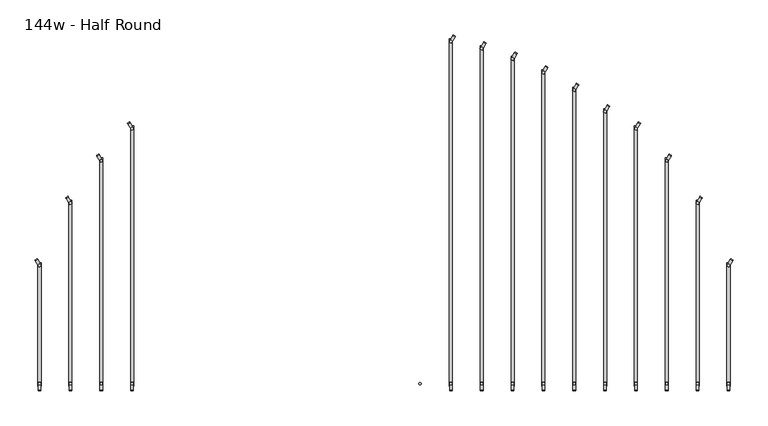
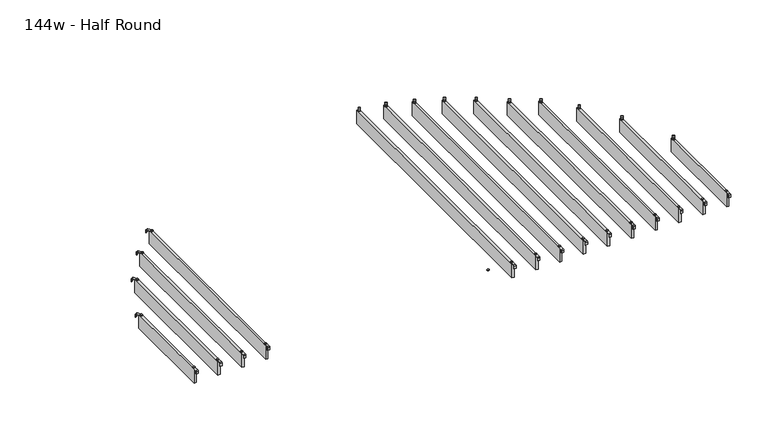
"""IFC4 building model written with IfcOpenShell, lengths in millimetres: furniture geometry, Haworth_Pergola_Ceiling_Slat_Radial : 144w - Half Round."""

from ifc_helpers import new_model, si_unit, point, frame, frame_2d, origin, place, context, project, spatial, polyline, circle_curve, trimmed, segment, composite_curve, outline, extrude, source, transform, mapped, element, save


def furniture_144w_half_round_df257ffa(model_context):
    return source(origin(), model_context, "Body", "SweptSolid", [
        extrude(outline(composite_curve([segment(trimmed(circle_curve(frame_2d((-1.0160034, 0.0159996)), 1.016), [point((-1.0160034, -1.0000004))], [point((-3.4e-06, 0.0159996))], True, "CARTESIAN"), True, "CONTINUOUS"), segment(polyline([(-3.4e-06, 0.0159996), (-3.4e-06, 36.7785168), (2.5329992, 36.7785168), (2.5329992, 0.022999)]), True, "CONTINUOUS"), segment(trimmed(circle_curve(frame_2d((-1.1500008, 0.022999)), 3.683), [point((2.5329992, 0.022999))], [point((-1.1500008, -3.660001))], False, "CARTESIAN"), True, "CONTINUOUS"), segment(polyline([(-1.1500008, -3.660001), (-19.0498319, -3.660001), (-19.0498319, -1.0000004), (-1.0160034, -1.0000004)]), True, "CONTINUOUS")], self_intersect=False)), frame((-1684.5791648, -1611.2848262, 2438.4), z_axis=(0.8660254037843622, 0.5000000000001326, 0.0), x_axis=(0.0, 0.0, 1.0)), (0.0, 0.0, 1.0), 13.0000002),
        extrude(outline(composite_curve([segment(trimmed(circle_curve(frame_2d((-1663.7, -2218.9346)), 5.9838099), [point((-1663.7, -2212.9507901))], [point((-1663.7, -2224.9184099))], False, "CARTESIAN"), True, "CONTINUOUS"), segment(trimmed(circle_curve(frame_2d((-1663.7, -2218.9346)), 5.9838099), [point((-1663.7, -2224.9184099))], [point((-1663.7, -2212.9507901))], False, "CARTESIAN"), True, "CONTINUOUS")], self_intersect=False)), frame((0.0, 0.0, 2440.9329992), z_axis=(0.0, 0.0, 1.0), x_axis=(1.0, 0.0, 0.0)), (0.0, 0.0, 1.0), 3.4400008),
        extrude(outline(composite_curve([segment(trimmed(circle_curve(frame_2d((-1663.7, -1634.4486)), 5.9838099), [point((-1663.7, -1640.4324099))], [point((-1663.7, -1628.4647901))], False, "CARTESIAN"), True, "CONTINUOUS"), segment(trimmed(circle_curve(frame_2d((-1663.7, -1634.4486)), 5.9838099), [point((-1663.7, -1628.4647901))], [point((-1663.7, -1640.4324099))], False, "CARTESIAN"), True, "CONTINUOUS")], self_intersect=False)), frame((0.0, 0.0, 2440.9329992), z_axis=(0.0, 0.0, 1.0), x_axis=(1.0, 0.0, 0.0)), (0.0, 0.0, 1.0), 3.4400008),
        extrude(outline(composite_curve([segment(polyline([(-2253.0946, 2419.2231711), (-2253.0946, 2437.2499992)]), True, "CONTINUOUS"), segment(trimmed(circle_curve(frame_2d((-2249.4116, 2437.2499992)), 3.683), [point((-2253.0946, 2437.2499992))], [point((-2249.4116, 2440.9329992))], False, "CARTESIAN"), True, "CONTINUOUS"), segment(polyline([(-2249.4116, 2440.9329992), (-2212.4346, 2440.9329992), (-2212.4346, 2438.2729997), (-2249.4251568, 2438.2729997)]), True, "CONTINUOUS"), segment(trimmed(circle_curve(frame_2d((-2249.4251568, 2437.2635571)), 1.0094425), [point((-2249.4251568, 2438.2729997))], [point((-2250.4345993, 2437.2635571))], True, "CARTESIAN"), True, "CONTINUOUS"), segment(polyline([(-2250.4345993, 2437.2635571), (-2250.4345993, 2419.2231711), (-2253.0946, 2419.2231711)]), True, "CONTINUOUS")], self_intersect=False)), frame((-1670.1930003, 0.0, 0.0), z_axis=(1.0, 0.0, 0.0), x_axis=(0.0, 1.0, 0.0)), (0.0, 0.0, 1.0), 13.0),
        extrude(outline(polyline([(-1671.193, -1620.7486), (-1656.207, -1620.7486), (-1656.207, -2232.6346), (-1671.193, -2232.6346), (-1671.193, -1620.7486)])), frame((0.0, 0.0, 2346.198), z_axis=(0.0, 0.0, 1.0), x_axis=(1.0, 0.0, 0.0)), (0.0, 0.0, 1.0), 92.202),
        extrude(outline(composite_curve([segment(trimmed(circle_curve(frame_2d((-1.0160034, 0.0159996)), 1.016), [point((-1.0160034, -1.0000004))], [point((-3.4e-06, 0.0159996))], True, "CARTESIAN"), True, "CONTINUOUS"), segment(polyline([(-3.4e-06, 0.0159996), (-3.4e-06, 36.7785168), (2.5329992, 36.7785168), (2.5329992, 0.022999)]), True, "CONTINUOUS"), segment(trimmed(circle_curve(frame_2d((-1.1500008, 0.022999)), 3.683), [point((2.5329992, 0.022999))], [point((-1.1500008, -3.660001))], False, "CARTESIAN"), True, "CONTINUOUS"), segment(polyline([(-1.1500008, -3.660001), (-19.0498319, -3.660001), (-19.0498319, -1.0000004), (-1.0160034, -1.0000004)]), True, "CONTINUOUS")], self_intersect=False)), frame((-1532.1791648, -1303.1828262, 2438.4), z_axis=(0.8660254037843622, 0.5000000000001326, 0.0), x_axis=(0.0, 0.0, 1.0)), (0.0, 0.0, 1.0), 13.0000002),
        extrude(outline(composite_curve([segment(trimmed(circle_curve(frame_2d((-1511.3, -2218.9346)), 5.9838099), [point((-1511.3, -2212.9507901))], [point((-1511.3, -2224.9184099))], False, "CARTESIAN"), True, "CONTINUOUS"), segment(trimmed(circle_curve(frame_2d((-1511.3, -2218.9346)), 5.9838099), [point((-1511.3, -2224.9184099))], [point((-1511.3, -2212.9507901))], False, "CARTESIAN"), True, "CONTINUOUS")], self_intersect=False)), frame((0.0, 0.0, 2440.9329992), z_axis=(0.0, 0.0, 1.0), x_axis=(1.0, 0.0, 0.0)), (0.0, 0.0, 1.0), 3.4400008),
        extrude(outline(composite_curve([segment(trimmed(circle_curve(frame_2d((-1511.3, -1326.3466)), 5.9838099), [point((-1511.3, -1332.3304099))], [point((-1511.3, -1320.3627901))], False, "CARTESIAN"), True, "CONTINUOUS"), segment(trimmed(circle_curve(frame_2d((-1511.3, -1326.3466)), 5.9838099), [point((-1511.3, -1320.3627901))], [point((-1511.3, -1332.3304099))], False, "CARTESIAN"), True, "CONTINUOUS")], self_intersect=False)), frame((0.0, 0.0, 2440.9329992), z_axis=(0.0, 0.0, 1.0), x_axis=(1.0, 0.0, 0.0)), (0.0, 0.0, 1.0), 3.4400008),
        extrude(outline(composite_curve([segment(polyline([(-2253.0946, 2419.2231711), (-2253.0946, 2437.2499992)]), True, "CONTINUOUS"), segment(trimmed(circle_curve(frame_2d((-2249.4116, 2437.2499992)), 3.683), [point((-2253.0946, 2437.2499992))], [point((-2249.4116, 2440.9329992))], False, "CARTESIAN"), True, "CONTINUOUS"), segment(polyline([(-2249.4116, 2440.9329992), (-2212.4346, 2440.9329992), (-2212.4346, 2438.2729997), (-2249.4251568, 2438.2729997)]), True, "CONTINUOUS"), segment(trimmed(circle_curve(frame_2d((-2249.4251568, 2437.2635571)), 1.0094425), [point((-2249.4251568, 2438.2729997))], [point((-2250.4345993, 2437.2635571))], True, "CARTESIAN"), True, "CONTINUOUS"), segment(polyline([(-2250.4345993, 2437.2635571), (-2250.4345993, 2419.2231711), (-2253.0946, 2419.2231711)]), True, "CONTINUOUS")], self_intersect=False)), frame((-1517.7930003, 0.0, 0.0), z_axis=(1.0, 0.0, 0.0), x_axis=(0.0, 1.0, 0.0)), (0.0, 0.0, 1.0), 13.0),
        extrude(outline(polyline([(-1518.793, -1312.6466), (-1503.807, -1312.6466), (-1503.807, -2232.6346), (-1518.793, -2232.6346), (-1518.793, -1312.6466)])), frame((0.0, 0.0, 2346.198), z_axis=(0.0, 0.0, 1.0), x_axis=(1.0, 0.0, 0.0)), (0.0, 0.0, 1.0), 92.202),
        extrude(outline(composite_curve([segment(trimmed(circle_curve(frame_2d((-1.0160034, 0.0159996)), 1.016), [point((-1.0160034, -1.0000004))], [point((-3.4e-06, 0.0159996))], True, "CARTESIAN"), True, "CONTINUOUS"), segment(polyline([(-3.4e-06, 0.0159996), (-3.4e-06, 36.7785168), (2.5329992, 36.7785168), (2.5329992, 0.022999)]), True, "CONTINUOUS"), segment(trimmed(circle_curve(frame_2d((-1.1500008, 0.022999)), 3.683), [point((2.5329992, 0.022999))], [point((-1.1500008, -3.660001))], False, "CARTESIAN"), True, "CONTINUOUS"), segment(polyline([(-1.1500008, -3.660001), (-19.0498319, -3.660001), (-19.0498319, -1.0000004), (-1.0160034, -1.0000004)]), True, "CONTINUOUS")], self_intersect=False)), frame((-1379.7791648, -1094.2424262, 2438.4), z_axis=(0.8660254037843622, 0.5000000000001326, 0.0), x_axis=(0.0, 0.0, 1.0)), (0.0, 0.0, 1.0), 13.0000002),
        extrude(outline(composite_curve([segment(trimmed(circle_curve(frame_2d((-1358.9, -2218.9346)), 5.9838099), [point((-1358.9, -2212.9507901))], [point((-1358.9, -2224.9184099))], False, "CARTESIAN"), True, "CONTINUOUS"), segment(trimmed(circle_curve(frame_2d((-1358.9, -2218.9346)), 5.9838099), [point((-1358.9, -2224.9184099))], [point((-1358.9, -2212.9507901))], False, "CARTESIAN"), True, "CONTINUOUS")], self_intersect=False)), frame((0.0, 0.0, 2440.9329992), z_axis=(0.0, 0.0, 1.0), x_axis=(1.0, 0.0, 0.0)), (0.0, 0.0, 1.0), 3.4400008),
        extrude(outline(composite_curve([segment(trimmed(circle_curve(frame_2d((-1358.9, -1117.4062)), 5.9838099), [point((-1358.9, -1123.3900099))], [point((-1358.9, -1111.4223901))], False, "CARTESIAN"), True, "CONTINUOUS"), segment(trimmed(circle_curve(frame_2d((-1358.9, -1117.4062)), 5.9838099), [point((-1358.9, -1111.4223901))], [point((-1358.9, -1123.3900099))], False, "CARTESIAN"), True, "CONTINUOUS")], self_intersect=False)), frame((0.0, 0.0, 2440.9329992), z_axis=(0.0, 0.0, 1.0), x_axis=(1.0, 0.0, 0.0)), (0.0, 0.0, 1.0), 3.4400008),
        extrude(outline(composite_curve([segment(polyline([(-2253.0946, 2419.2231711), (-2253.0946, 2437.2499992)]), True, "CONTINUOUS"), segment(trimmed(circle_curve(frame_2d((-2249.4116, 2437.2499992)), 3.683), [point((-2253.0946, 2437.2499992))], [point((-2249.4116, 2440.9329992))], False, "CARTESIAN"), True, "CONTINUOUS"), segment(polyline([(-2249.4116, 2440.9329992), (-2212.4346, 2440.9329992), (-2212.4346, 2438.2729997), (-2249.4251568, 2438.2729997)]), True, "CONTINUOUS"), segment(trimmed(circle_curve(frame_2d((-2249.4251568, 2437.2635571)), 1.0094425), [point((-2249.4251568, 2438.2729997))], [point((-2250.4345993, 2437.2635571))], True, "CARTESIAN"), True, "CONTINUOUS"), segment(polyline([(-2250.4345993, 2437.2635571), (-2250.4345993, 2419.2231711), (-2253.0946, 2419.2231711)]), True, "CONTINUOUS")], self_intersect=False)), frame((-1365.3930003, 0.0, 0.0), z_axis=(1.0, 0.0, 0.0), x_axis=(0.0, 1.0, 0.0)), (0.0, 0.0, 1.0), 13.0),
        extrude(outline(polyline([(-1366.393, -1103.7062), (-1351.407, -1103.7062), (-1351.407, -2232.6346), (-1366.393, -2232.6346), (-1366.393, -1103.7062)])), frame((0.0, 0.0, 2346.198), z_axis=(0.0, 0.0, 1.0), x_axis=(1.0, 0.0, 0.0)), (0.0, 0.0, 1.0), 92.202),
        extrude(outline(composite_curve([segment(trimmed(circle_curve(frame_2d((-1.0160034, 0.0159996)), 1.016), [point((-1.0160034, -1.0000004))], [point((-3.4e-06, 0.0159996))], True, "CARTESIAN"), True, "CONTINUOUS"), segment(polyline([(-3.4e-06, 0.0159996), (-3.4e-06, 36.7785168), (2.5329992, 36.7785168), (2.5329992, 0.022999)]), True, "CONTINUOUS"), segment(trimmed(circle_curve(frame_2d((-1.1500008, 0.022999)), 3.683), [point((2.5329992, 0.022999))], [point((-1.1500008, -3.660001))], False, "CARTESIAN"), True, "CONTINUOUS"), segment(polyline([(-1.1500008, -3.660001), (-19.0498319, -3.660001), (-19.0498319, -1.0000004), (-1.0160034, -1.0000004)]), True, "CONTINUOUS")], self_intersect=False)), frame((-1227.3791648, -935.7464262, 2438.4), z_axis=(0.8660254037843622, 0.5000000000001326, 0.0), x_axis=(0.0, 0.0, 1.0)), (0.0, 0.0, 1.0), 13.0000002),
        extrude(outline(composite_curve([segment(trimmed(circle_curve(frame_2d((-1206.5, -2218.9346)), 5.9838099), [point((-1206.5, -2212.9507901))], [point((-1206.5, -2224.9184099))], False, "CARTESIAN"), True, "CONTINUOUS"), segment(trimmed(circle_curve(frame_2d((-1206.5, -2218.9346)), 5.9838099), [point((-1206.5, -2224.9184099))], [point((-1206.5, -2212.9507901))], False, "CARTESIAN"), True, "CONTINUOUS")], self_intersect=False)), frame((0.0, 0.0, 2440.9329992), z_axis=(0.0, 0.0, 1.0), x_axis=(1.0, 0.0, 0.0)), (0.0, 0.0, 1.0), 3.4400008),
        extrude(outline(composite_curve([segment(trimmed(circle_curve(frame_2d((-1206.5, -958.9102)), 5.9838099), [point((-1206.5, -964.8940099))], [point((-1206.5, -952.9263901))], False, "CARTESIAN"), True, "CONTINUOUS"), segment(trimmed(circle_curve(frame_2d((-1206.5, -958.9102)), 5.9838099), [point((-1206.5, -952.9263901))], [point((-1206.5, -964.8940099))], False, "CARTESIAN"), True, "CONTINUOUS")], self_intersect=False)), frame((0.0, 0.0, 2440.9329992), z_axis=(0.0, 0.0, 1.0), x_axis=(1.0, 0.0, 0.0)), (0.0, 0.0, 1.0), 3.4400008),
        extrude(outline(composite_curve([segment(polyline([(-2253.0946, 2419.2231711), (-2253.0946, 2437.2499992)]), True, "CONTINUOUS"), segment(trimmed(circle_curve(frame_2d((-2249.4116, 2437.2499992)), 3.683), [point((-2253.0946, 2437.2499992))], [point((-2249.4116, 2440.9329992))], False, "CARTESIAN"), True, "CONTINUOUS"), segment(polyline([(-2249.4116, 2440.9329992), (-2212.4346, 2440.9329992), (-2212.4346, 2438.2729997), (-2249.4251568, 2438.2729997)]), True, "CONTINUOUS"), segment(trimmed(circle_curve(frame_2d((-2249.4251568, 2437.2635571)), 1.0094425), [point((-2249.4251568, 2438.2729997))], [point((-2250.4345993, 2437.2635571))], True, "CARTESIAN"), True, "CONTINUOUS"), segment(polyline([(-2250.4345993, 2437.2635571), (-2250.4345993, 2419.2231711), (-2253.0946, 2419.2231711)]), True, "CONTINUOUS")], self_intersect=False)), frame((-1212.9930003, 0.0, 0.0), z_axis=(1.0, 0.0, 0.0), x_axis=(0.0, 1.0, 0.0)), (0.0, 0.0, 1.0), 13.0),
        extrude(outline(polyline([(-1213.993, -945.2102), (-1199.007, -945.2102), (-1199.007, -2232.6346), (-1213.993, -2232.6346), (-1213.993, -945.2102)])), frame((0.0, 0.0, 2346.198), z_axis=(0.0, 0.0, 1.0), x_axis=(1.0, 0.0, 0.0)), (0.0, 0.0, 1.0), 92.202),
        extrude(outline(composite_curve([segment(polyline([(-1.0160034, 1.0000004), (-19.0498319, 1.0000004), (-19.0498319, 3.660001), (-1.1500008, 3.660001)]), True, "CONTINUOUS"), segment(trimmed(circle_curve(frame_2d((-1.1500008, -0.022999)), 3.683), [point((-1.1500008, 3.660001))], [point((2.5329992, -0.022999))], False, "CARTESIAN"), True, "CONTINUOUS"), segment(polyline([(2.5329992, -0.022999), (2.5329992, -36.7785168), (-3.4e-06, -36.7785168), (-3.4e-06, -0.0159996)]), True, "CONTINUOUS"), segment(trimmed(circle_curve(frame_2d((-1.0160034, -0.0159996)), 1.016), [point((-3.4e-06, -0.0159996))], [point((-1.0160034, 1.0000004))], True, "CARTESIAN"), True, "CONTINUOUS")], self_intersect=False)), frame((1760.7791648, -1611.2848262, 2438.4), z_axis=(-0.8660254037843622, 0.5000000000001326, 0.0), x_axis=(0.0, 0.0, 1.0)), (0.0, 0.0, 1.0), 13.0000002),
        extrude(outline(composite_curve([segment(trimmed(circle_curve(frame_2d((1739.9, -2218.9346)), 5.9838099), [point((1739.9, -2212.9507901))], [point((1739.9, -2224.9184099))], False, "CARTESIAN"), True, "CONTINUOUS"), segment(trimmed(circle_curve(frame_2d((1739.9, -2218.9346)), 5.9838099), [point((1739.9, -2224.9184099))], [point((1739.9, -2212.9507901))], False, "CARTESIAN"), True, "CONTINUOUS")], self_intersect=False)), frame((0.0, 0.0, 2440.9329992), z_axis=(0.0, 0.0, 1.0), x_axis=(1.0, 0.0, 0.0)), (0.0, 0.0, 1.0), 3.4400008),
        extrude(outline(composite_curve([segment(trimmed(circle_curve(frame_2d((1739.9, -1634.4486)), 5.9838099), [point((1739.9, -1640.4324099))], [point((1739.9, -1628.4647901))], False, "CARTESIAN"), True, "CONTINUOUS"), segment(trimmed(circle_curve(frame_2d((1739.9, -1634.4486)), 5.9838099), [point((1739.9, -1628.4647901))], [point((1739.9, -1640.4324099))], False, "CARTESIAN"), True, "CONTINUOUS")], self_intersect=False)), frame((0.0, 0.0, 2440.9329992), z_axis=(0.0, 0.0, 1.0), x_axis=(1.0, 0.0, 0.0)), (0.0, 0.0, 1.0), 3.4400008),
        extrude(outline(composite_curve([segment(polyline([(-2253.0946, 2419.2231711), (-2253.0946, 2437.2499992)]), True, "CONTINUOUS"), segment(trimmed(circle_curve(frame_2d((-2249.4116, 2437.2499992)), 3.683), [point((-2253.0946, 2437.2499992))], [point((-2249.4116, 2440.9329992))], False, "CARTESIAN"), True, "CONTINUOUS"), segment(polyline([(-2249.4116, 2440.9329992), (-2212.4346, 2440.9329992), (-2212.4346, 2438.2729997), (-2249.4251568, 2438.2729997)]), True, "CONTINUOUS"), segment(trimmed(circle_curve(frame_2d((-2249.4251568, 2437.2635571)), 1.0094425), [point((-2249.4251568, 2438.2729997))], [point((-2250.4345993, 2437.2635571))], True, "CARTESIAN"), True, "CONTINUOUS"), segment(polyline([(-2250.4345993, 2437.2635571), (-2250.4345993, 2419.2231711), (-2253.0946, 2419.2231711)]), True, "CONTINUOUS")], self_intersect=False)), frame((1733.3930003, 0.0, 0.0), z_axis=(1.0, 0.0, 0.0), x_axis=(0.0, 1.0, 0.0)), (0.0, 0.0, 1.0), 13.0),
        extrude(outline(polyline([(1747.393, -1620.7486), (1747.393, -2232.6346), (1732.407, -2232.6346), (1732.407, -1620.7486), (1747.393, -1620.7486)])), frame((0.0, 0.0, 2346.198), z_axis=(0.0, 0.0, 1.0), x_axis=(1.0, 0.0, 0.0)), (0.0, 0.0, 1.0), 92.202),
        extrude(outline(composite_curve([segment(polyline([(-1.0160034, 1.0000004), (-19.0498319, 1.0000004), (-19.0498319, 3.660001), (-1.1500008, 3.660001)]), True, "CONTINUOUS"), segment(trimmed(circle_curve(frame_2d((-1.1500008, -0.022999)), 3.683), [point((-1.1500008, 3.660001))], [point((2.5329992, -0.022999))], False, "CARTESIAN"), True, "CONTINUOUS"), segment(polyline([(2.5329992, -0.022999), (2.5329992, -36.7785168), (-3.4e-06, -36.7785168), (-3.4e-06, -0.0159996)]), True, "CONTINUOUS"), segment(trimmed(circle_curve(frame_2d((-1.0160034, -0.0159996)), 1.016), [point((-3.4e-06, -0.0159996))], [point((-1.0160034, 1.0000004))], True, "CARTESIAN"), True, "CONTINUOUS")], self_intersect=False)), frame((1608.3791648, -1303.1828262, 2438.4), z_axis=(-0.8660254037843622, 0.5000000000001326, 0.0), x_axis=(0.0, 0.0, 1.0)), (0.0, 0.0, 1.0), 13.0000002),
        extrude(outline(composite_curve([segment(trimmed(circle_curve(frame_2d((1587.5, -2218.9346)), 5.9838099), [point((1587.5, -2212.9507901))], [point((1587.5, -2224.9184099))], False, "CARTESIAN"), True, "CONTINUOUS"), segment(trimmed(circle_curve(frame_2d((1587.5, -2218.9346)), 5.9838099), [point((1587.5, -2224.9184099))], [point((1587.5, -2212.9507901))], False, "CARTESIAN"), True, "CONTINUOUS")], self_intersect=False)), frame((0.0, 0.0, 2440.9329992), z_axis=(0.0, 0.0, 1.0), x_axis=(1.0, 0.0, 0.0)), (0.0, 0.0, 1.0), 3.4400008),
        extrude(outline(composite_curve([segment(trimmed(circle_curve(frame_2d((1587.5, -1326.3466)), 5.9838099), [point((1587.5, -1332.3304099))], [point((1587.5, -1320.3627901))], False, "CARTESIAN"), True, "CONTINUOUS"), segment(trimmed(circle_curve(frame_2d((1587.5, -1326.3466)), 5.9838099), [point((1587.5, -1320.3627901))], [point((1587.5, -1332.3304099))], False, "CARTESIAN"), True, "CONTINUOUS")], self_intersect=False)), frame((0.0, 0.0, 2440.9329992), z_axis=(0.0, 0.0, 1.0), x_axis=(1.0, 0.0, 0.0)), (0.0, 0.0, 1.0), 3.4400008),
        extrude(outline(composite_curve([segment(polyline([(-2253.0946, 2419.2231711), (-2253.0946, 2437.2499992)]), True, "CONTINUOUS"), segment(trimmed(circle_curve(frame_2d((-2249.4116, 2437.2499992)), 3.683), [point((-2253.0946, 2437.2499992))], [point((-2249.4116, 2440.9329992))], False, "CARTESIAN"), True, "CONTINUOUS"), segment(polyline([(-2249.4116, 2440.9329992), (-2212.4346, 2440.9329992), (-2212.4346, 2438.2729997), (-2249.4251568, 2438.2729997)]), True, "CONTINUOUS"), segment(trimmed(circle_curve(frame_2d((-2249.4251568, 2437.2635571)), 1.0094425), [point((-2249.4251568, 2438.2729997))], [point((-2250.4345993, 2437.2635571))], True, "CARTESIAN"), True, "CONTINUOUS"), segment(polyline([(-2250.4345993, 2437.2635571), (-2250.4345993, 2419.2231711), (-2253.0946, 2419.2231711)]), True, "CONTINUOUS")], self_intersect=False)), frame((1580.9930003, 0.0, 0.0), z_axis=(1.0, 0.0, 0.0), x_axis=(0.0, 1.0, 0.0)), (0.0, 0.0, 1.0), 13.0),
        extrude(outline(polyline([(1594.993, -1312.6466), (1594.993, -2232.6346), (1580.007, -2232.6346), (1580.007, -1312.6466), (1594.993, -1312.6466)])), frame((0.0, 0.0, 2346.198), z_axis=(0.0, 0.0, 1.0), x_axis=(1.0, 0.0, 0.0)), (0.0, 0.0, 1.0), 92.202),
        extrude(outline(composite_curve([segment(polyline([(-1.0160034, 1.0000004), (-19.0498319, 1.0000004), (-19.0498319, 3.660001), (-1.1500008, 3.660001)]), True, "CONTINUOUS"), segment(trimmed(circle_curve(frame_2d((-1.1500008, -0.022999)), 3.683), [point((-1.1500008, 3.660001))], [point((2.5329992, -0.022999))], False, "CARTESIAN"), True, "CONTINUOUS"), segment(polyline([(2.5329992, -0.022999), (2.5329992, -36.7785168), (-3.4e-06, -36.7785168), (-3.4e-06, -0.0159996)]), True, "CONTINUOUS"), segment(trimmed(circle_curve(frame_2d((-1.0160034, -0.0159996)), 1.016), [point((-3.4e-06, -0.0159996))], [point((-1.0160034, 1.0000004))], True, "CARTESIAN"), True, "CONTINUOUS")], self_intersect=False)), frame((1455.9791648, -1094.2424262, 2438.4), z_axis=(-0.8660254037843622, 0.5000000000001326, 0.0), x_axis=(0.0, 0.0, 1.0)), (0.0, 0.0, 1.0), 13.0000002),
        extrude(outline(composite_curve([segment(trimmed(circle_curve(frame_2d((1435.1, -2218.9346)), 5.9838099), [point((1435.1, -2212.9507901))], [point((1435.1, -2224.9184099))], False, "CARTESIAN"), True, "CONTINUOUS"), segment(trimmed(circle_curve(frame_2d((1435.1, -2218.9346)), 5.9838099), [point((1435.1, -2224.9184099))], [point((1435.1, -2212.9507901))], False, "CARTESIAN"), True, "CONTINUOUS")], self_intersect=False)), frame((0.0, 0.0, 2440.9329992), z_axis=(0.0, 0.0, 1.0), x_axis=(1.0, 0.0, 0.0)), (0.0, 0.0, 1.0), 3.4400008),
        extrude(outline(composite_curve([segment(trimmed(circle_curve(frame_2d((1435.1, -1117.4062)), 5.9838099), [point((1435.1, -1123.3900099))], [point((1435.1, -1111.4223901))], False, "CARTESIAN"), True, "CONTINUOUS"), segment(trimmed(circle_curve(frame_2d((1435.1, -1117.4062)), 5.9838099), [point((1435.1, -1111.4223901))], [point((1435.1, -1123.3900099))], False, "CARTESIAN"), True, "CONTINUOUS")], self_intersect=False)), frame((0.0, 0.0, 2440.9329992), z_axis=(0.0, 0.0, 1.0), x_axis=(1.0, 0.0, 0.0)), (0.0, 0.0, 1.0), 3.4400008),
        extrude(outline(composite_curve([segment(polyline([(-2253.0946, 2419.2231711), (-2253.0946, 2437.2499992)]), True, "CONTINUOUS"), segment(trimmed(circle_curve(frame_2d((-2249.4116, 2437.2499992)), 3.683), [point((-2253.0946, 2437.2499992))], [point((-2249.4116, 2440.9329992))], False, "CARTESIAN"), True, "CONTINUOUS"), segment(polyline([(-2249.4116, 2440.9329992), (-2212.4346, 2440.9329992), (-2212.4346, 2438.2729997), (-2249.4251568, 2438.2729997)]), True, "CONTINUOUS"), segment(trimmed(circle_curve(frame_2d((-2249.4251568, 2437.2635571)), 1.0094425), [point((-2249.4251568, 2438.2729997))], [point((-2250.4345993, 2437.2635571))], True, "CARTESIAN"), True, "CONTINUOUS"), segment(polyline([(-2250.4345993, 2437.2635571), (-2250.4345993, 2419.2231711), (-2253.0946, 2419.2231711)]), True, "CONTINUOUS")], self_intersect=False)), frame((1428.5930003, 0.0, 0.0), z_axis=(1.0, 0.0, 0.0), x_axis=(0.0, 1.0, 0.0)), (0.0, 0.0, 1.0), 13.0),
        extrude(outline(polyline([(1442.593, -1103.7062), (1442.593, -2232.6346), (1427.607, -2232.6346), (1427.607, -1103.7062), (1442.593, -1103.7062)])), frame((0.0, 0.0, 2346.198), z_axis=(0.0, 0.0, 1.0), x_axis=(1.0, 0.0, 0.0)), (0.0, 0.0, 1.0), 92.202),
        extrude(outline(composite_curve([segment(polyline([(-1.0160034, 1.0000004), (-19.0498319, 1.0000004), (-19.0498319, 3.660001), (-1.1500008, 3.660001)]), True, "CONTINUOUS"), segment(trimmed(circle_curve(frame_2d((-1.1500008, -0.022999)), 3.683), [point((-1.1500008, 3.660001))], [point((2.5329992, -0.022999))], False, "CARTESIAN"), True, "CONTINUOUS"), segment(polyline([(2.5329992, -0.022999), (2.5329992, -36.7785168), (-3.4e-06, -36.7785168), (-3.4e-06, -0.0159996)]), True, "CONTINUOUS"), segment(trimmed(circle_curve(frame_2d((-1.0160034, -0.0159996)), 1.016), [point((-3.4e-06, -0.0159996))], [point((-1.0160034, 1.0000004))], True, "CARTESIAN"), True, "CONTINUOUS")], self_intersect=False)), frame((1303.5791648, -935.7464262, 2438.4), z_axis=(-0.8660254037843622, 0.5000000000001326, 0.0), x_axis=(0.0, 0.0, 1.0)), (0.0, 0.0, 1.0), 13.0000002),
        extrude(outline(composite_curve([segment(trimmed(circle_curve(frame_2d((1282.7, -2218.9346)), 5.9838099), [point((1282.7, -2212.9507901))], [point((1282.7, -2224.9184099))], False, "CARTESIAN"), True, "CONTINUOUS"), segment(trimmed(circle_curve(frame_2d((1282.7, -2218.9346)), 5.9838099), [point((1282.7, -2224.9184099))], [point((1282.7, -2212.9507901))], False, "CARTESIAN"), True, "CONTINUOUS")], self_intersect=False)), frame((0.0, 0.0, 2440.9329992), z_axis=(0.0, 0.0, 1.0), x_axis=(1.0, 0.0, 0.0)), (0.0, 0.0, 1.0), 3.4400008),
        extrude(outline(composite_curve([segment(trimmed(circle_curve(frame_2d((1282.7, -958.9102)), 5.9838099), [point((1282.7, -964.8940099))], [point((1282.7, -952.9263901))], False, "CARTESIAN"), True, "CONTINUOUS"), segment(trimmed(circle_curve(frame_2d((1282.7, -958.9102)), 5.9838099), [point((1282.7, -952.9263901))], [point((1282.7, -964.8940099))], False, "CARTESIAN"), True, "CONTINUOUS")], self_intersect=False)), frame((0.0, 0.0, 2440.9329992), z_axis=(0.0, 0.0, 1.0), x_axis=(1.0, 0.0, 0.0)), (0.0, 0.0, 1.0), 3.4400008),
        extrude(outline(composite_curve([segment(polyline([(-2253.0946, 2419.2231711), (-2253.0946, 2437.2499992)]), True, "CONTINUOUS"), segment(trimmed(circle_curve(frame_2d((-2249.4116, 2437.2499992)), 3.683), [point((-2253.0946, 2437.2499992))], [point((-2249.4116, 2440.9329992))], False, "CARTESIAN"), True, "CONTINUOUS"), segment(polyline([(-2249.4116, 2440.9329992), (-2212.4346, 2440.9329992), (-2212.4346, 2438.2729997), (-2249.4251568, 2438.2729997)]), True, "CONTINUOUS"), segment(trimmed(circle_curve(frame_2d((-2249.4251568, 2437.2635571)), 1.0094425), [point((-2249.4251568, 2438.2729997))], [point((-2250.4345993, 2437.2635571))], True, "CARTESIAN"), True, "CONTINUOUS"), segment(polyline([(-2250.4345993, 2437.2635571), (-2250.4345993, 2419.2231711), (-2253.0946, 2419.2231711)]), True, "CONTINUOUS")], self_intersect=False)), frame((1276.1930003, 0.0, 0.0), z_axis=(1.0, 0.0, 0.0), x_axis=(0.0, 1.0, 0.0)), (0.0, 0.0, 1.0), 13.0),
        extrude(outline(polyline([(1290.193, -945.2102), (1290.193, -2232.6346), (1275.207, -2232.6346), (1275.207, -945.2102), (1290.193, -945.2102)])), frame((0.0, 0.0, 2346.198), z_axis=(0.0, 0.0, 1.0), x_axis=(1.0, 0.0, 0.0)), (0.0, 0.0, 1.0), 92.202),
        extrude(outline(composite_curve([segment(polyline([(-1.0160034, 1.0000004), (-19.0498319, 1.0000004), (-19.0498319, 3.660001), (-1.1500008, 3.660001)]), True, "CONTINUOUS"), segment(trimmed(circle_curve(frame_2d((-1.1500008, -0.022999)), 3.683), [point((-1.1500008, 3.660001))], [point((2.5329992, -0.022999))], False, "CARTESIAN"), True, "CONTINUOUS"), segment(polyline([(2.5329992, -0.022999), (2.5329992, -36.7785168), (-3.4e-06, -36.7785168), (-3.4e-06, -0.0159996)]), True, "CONTINUOUS"), segment(trimmed(circle_curve(frame_2d((-1.0160034, -0.0159996)), 1.016), [point((-3.4e-06, -0.0159996))], [point((-1.0160034, 1.0000004))], True, "CARTESIAN"), True, "CONTINUOUS")], self_intersect=False)), frame((1151.1791648, -850.6564262, 2438.4), z_axis=(-0.8660254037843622, 0.5000000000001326, 0.0), x_axis=(0.0, 0.0, 1.0)), (0.0, 0.0, 1.0), 13.0000002),
        extrude(outline(composite_curve([segment(trimmed(circle_curve(frame_2d((1130.3, -2218.9346)), 5.9838099), [point((1130.3, -2212.9507901))], [point((1130.3, -2224.9184099))], False, "CARTESIAN"), True, "CONTINUOUS"), segment(trimmed(circle_curve(frame_2d((1130.3, -2218.9346)), 5.9838099), [point((1130.3, -2224.9184099))], [point((1130.3, -2212.9507901))], False, "CARTESIAN"), True, "CONTINUOUS")], self_intersect=False)), frame((0.0, 0.0, 2440.9329992), z_axis=(0.0, 0.0, 1.0), x_axis=(1.0, 0.0, 0.0)), (0.0, 0.0, 1.0), 3.4400008),
        extrude(outline(composite_curve([segment(trimmed(circle_curve(frame_2d((1130.3, -873.8202)), 5.9838099), [point((1130.3, -879.8040099))], [point((1130.3, -867.8363901))], False, "CARTESIAN"), True, "CONTINUOUS"), segment(trimmed(circle_curve(frame_2d((1130.3, -873.8202)), 5.9838099), [point((1130.3, -867.8363901))], [point((1130.3, -879.8040099))], False, "CARTESIAN"), True, "CONTINUOUS")], self_intersect=False)), frame((0.0, 0.0, 2440.9329992), z_axis=(0.0, 0.0, 1.0), x_axis=(1.0, 0.0, 0.0)), (0.0, 0.0, 1.0), 3.4400008),
        extrude(outline(composite_curve([segment(polyline([(-2253.0946, 2419.2231711), (-2253.0946, 2437.2499992)]), True, "CONTINUOUS"), segment(trimmed(circle_curve(frame_2d((-2249.4116, 2437.2499992)), 3.683), [point((-2253.0946, 2437.2499992))], [point((-2249.4116, 2440.9329992))], False, "CARTESIAN"), True, "CONTINUOUS"), segment(polyline([(-2249.4116, 2440.9329992), (-2212.4346, 2440.9329992), (-2212.4346, 2438.2729997), (-2249.4251568, 2438.2729997)]), True, "CONTINUOUS"), segment(trimmed(circle_curve(frame_2d((-2249.4251568, 2437.2635571)), 1.0094425), [point((-2249.4251568, 2438.2729997))], [point((-2250.4345993, 2437.2635571))], True, "CARTESIAN"), True, "CONTINUOUS"), segment(polyline([(-2250.4345993, 2437.2635571), (-2250.4345993, 2419.2231711), (-2253.0946, 2419.2231711)]), True, "CONTINUOUS")], self_intersect=False)), frame((1123.7930003, 0.0, 0.0), z_axis=(1.0, 0.0, 0.0), x_axis=(0.0, 1.0, 0.0)), (0.0, 0.0, 1.0), 13.0),
        extrude(outline(polyline([(1137.793, -860.1202), (1137.793, -2232.6346), (1122.807, -2232.6346), (1122.807, -860.1202), (1137.793, -860.1202)])), frame((0.0, 0.0, 2346.198), z_axis=(0.0, 0.0, 1.0), x_axis=(1.0, 0.0, 0.0)), (0.0, 0.0, 1.0), 92.202),
        extrude(outline(composite_curve([segment(polyline([(-1.0160034, 1.0000004), (-19.0498319, 1.0000004), (-19.0498319, 3.660001), (-1.1500008, 3.660001)]), True, "CONTINUOUS"), segment(trimmed(circle_curve(frame_2d((-1.1500008, -0.022999)), 3.683), [point((-1.1500008, 3.660001))], [point((2.5329992, -0.022999))], False, "CARTESIAN"), True, "CONTINUOUS"), segment(polyline([(2.5329992, -0.022999), (2.5329992, -36.7785168), (-3.4e-06, -36.7785168), (-3.4e-06, -0.0159996)]), True, "CONTINUOUS"), segment(trimmed(circle_curve(frame_2d((-1.0160034, -0.0159996)), 1.016), [point((-3.4e-06, -0.0159996))], [point((-1.0160034, 1.0000004))], True, "CARTESIAN"), True, "CONTINUOUS")], self_intersect=False)), frame((998.7791648, -744.8400262, 2438.4), z_axis=(-0.8660254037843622, 0.5000000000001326, 0.0), x_axis=(0.0, 0.0, 1.0)), (0.0, 0.0, 1.0), 13.0000002),
        extrude(outline(composite_curve([segment(trimmed(circle_curve(frame_2d((977.9, -2218.9346)), 5.9838099), [point((977.9, -2212.9507901))], [point((977.9, -2224.9184099))], False, "CARTESIAN"), True, "CONTINUOUS"), segment(trimmed(circle_curve(frame_2d((977.9, -2218.9346)), 5.9838099), [point((977.9, -2224.9184099))], [point((977.9, -2212.9507901))], False, "CARTESIAN"), True, "CONTINUOUS")], self_intersect=False)), frame((0.0, 0.0, 2440.9329992), z_axis=(0.0, 0.0, 1.0), x_axis=(1.0, 0.0, 0.0)), (0.0, 0.0, 1.0), 3.4400008),
        extrude(outline(composite_curve([segment(trimmed(circle_curve(frame_2d((977.9, -768.0038)), 5.9838099), [point((977.9, -773.9876099))], [point((977.9, -762.0199901))], False, "CARTESIAN"), True, "CONTINUOUS"), segment(trimmed(circle_curve(frame_2d((977.9, -768.0038)), 5.9838099), [point((977.9, -762.0199901))], [point((977.9, -773.9876099))], False, "CARTESIAN"), True, "CONTINUOUS")], self_intersect=False)), frame((0.0, 0.0, 2440.9329992), z_axis=(0.0, 0.0, 1.0), x_axis=(1.0, 0.0, 0.0)), (0.0, 0.0, 1.0), 3.4400008),
        extrude(outline(composite_curve([segment(polyline([(-2253.0946, 2419.2231711), (-2253.0946, 2437.2499992)]), True, "CONTINUOUS"), segment(trimmed(circle_curve(frame_2d((-2249.4116, 2437.2499992)), 3.683), [point((-2253.0946, 2437.2499992))], [point((-2249.4116, 2440.9329992))], False, "CARTESIAN"), True, "CONTINUOUS"), segment(polyline([(-2249.4116, 2440.9329992), (-2212.4346, 2440.9329992), (-2212.4346, 2438.2729997), (-2249.4251568, 2438.2729997)]), True, "CONTINUOUS"), segment(trimmed(circle_curve(frame_2d((-2249.4251568, 2437.2635571)), 1.0094425), [point((-2249.4251568, 2438.2729997))], [point((-2250.4345993, 2437.2635571))], True, "CARTESIAN"), True, "CONTINUOUS"), segment(polyline([(-2250.4345993, 2437.2635571), (-2250.4345993, 2419.2231711), (-2253.0946, 2419.2231711)]), True, "CONTINUOUS")], self_intersect=False)), frame((971.3930003, 0.0, 0.0), z_axis=(1.0, 0.0, 0.0), x_axis=(0.0, 1.0, 0.0)), (0.0, 0.0, 1.0), 13.0),
        extrude(outline(polyline([(985.393, -754.3038), (985.393, -2232.6346), (970.407, -2232.6346), (970.407, -754.3038), (985.393, -754.3038)])), frame((0.0, 0.0, 2346.198), z_axis=(0.0, 0.0, 1.0), x_axis=(1.0, 0.0, 0.0)), (0.0, 0.0, 1.0), 92.202),
        extrude(outline(composite_curve([segment(polyline([(-1.0160034, 1.0000004), (-19.0498319, 1.0000004), (-19.0498319, 3.660001), (-1.1500008, 3.660001)]), True, "CONTINUOUS"), segment(trimmed(circle_curve(frame_2d((-1.1500008, -0.022999)), 3.683), [point((-1.1500008, 3.660001))], [point((2.5329992, -0.022999))], False, "CARTESIAN"), True, "CONTINUOUS"), segment(polyline([(2.5329992, -0.022999), (2.5329992, -36.7785168), (-3.4e-06, -36.7785168), (-3.4e-06, -0.0159996)]), True, "CONTINUOUS"), segment(trimmed(circle_curve(frame_2d((-1.0160034, -0.0159996)), 1.016), [point((-3.4e-06, -0.0159996))], [point((-1.0160034, 1.0000004))], True, "CARTESIAN"), True, "CONTINUOUS")], self_intersect=False)), frame((846.3791648, -657.9466262, 2438.4), z_axis=(-0.8660254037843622, 0.5000000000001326, 0.0), x_axis=(0.0, 0.0, 1.0)), (0.0, 0.0, 1.0), 13.0000002),
        extrude(outline(composite_curve([segment(trimmed(circle_curve(frame_2d((825.5, -2218.9346)), 5.9838099), [point((825.5, -2212.9507901))], [point((825.5, -2224.9184099))], False, "CARTESIAN"), True, "CONTINUOUS"), segment(trimmed(circle_curve(frame_2d((825.5, -2218.9346)), 5.9838099), [point((825.5, -2224.9184099))], [point((825.5, -2212.9507901))], False, "CARTESIAN"), True, "CONTINUOUS")], self_intersect=False)), frame((0.0, 0.0, 2440.9329992), z_axis=(0.0, 0.0, 1.0), x_axis=(1.0, 0.0, 0.0)), (0.0, 0.0, 1.0), 3.4400008),
        extrude(outline(composite_curve([segment(trimmed(circle_curve(frame_2d((825.5, -681.1104)), 5.9838099), [point((825.5, -687.0942099))], [point((825.5, -675.1265901))], False, "CARTESIAN"), True, "CONTINUOUS"), segment(trimmed(circle_curve(frame_2d((825.5, -681.1104)), 5.9838099), [point((825.5, -675.1265901))], [point((825.5, -687.0942099))], False, "CARTESIAN"), True, "CONTINUOUS")], self_intersect=False)), frame((0.0, 0.0, 2440.9329992), z_axis=(0.0, 0.0, 1.0), x_axis=(1.0, 0.0, 0.0)), (0.0, 0.0, 1.0), 3.4400008),
        extrude(outline(composite_curve([segment(polyline([(-2253.0946, 2419.2231711), (-2253.0946, 2437.2499992)]), True, "CONTINUOUS"), segment(trimmed(circle_curve(frame_2d((-2249.4116, 2437.2499992)), 3.683), [point((-2253.0946, 2437.2499992))], [point((-2249.4116, 2440.9329992))], False, "CARTESIAN"), True, "CONTINUOUS"), segment(polyline([(-2249.4116, 2440.9329992), (-2212.4346, 2440.9329992), (-2212.4346, 2438.2729997), (-2249.4251568, 2438.2729997)]), True, "CONTINUOUS"), segment(trimmed(circle_curve(frame_2d((-2249.4251568, 2437.2635571)), 1.0094425), [point((-2249.4251568, 2438.2729997))], [point((-2250.4345993, 2437.2635571))], True, "CARTESIAN"), True, "CONTINUOUS"), segment(polyline([(-2250.4345993, 2437.2635571), (-2250.4345993, 2419.2231711), (-2253.0946, 2419.2231711)]), True, "CONTINUOUS")], self_intersect=False)), frame((818.9930003, 0.0, 0.0), z_axis=(1.0, 0.0, 0.0), x_axis=(0.0, 1.0, 0.0)), (0.0, 0.0, 1.0), 13.0),
        extrude(outline(polyline([(832.993, -667.4104), (832.993, -2232.6346), (818.007, -2232.6346), (818.007, -667.4104), (832.993, -667.4104)])), frame((0.0, 0.0, 2346.198), z_axis=(0.0, 0.0, 1.0), x_axis=(1.0, 0.0, 0.0)), (0.0, 0.0, 1.0), 92.202),
        extrude(outline(composite_curve([segment(polyline([(-1.0160034, 1.0000004), (-19.0498319, 1.0000004), (-19.0498319, 3.660001), (-1.1500008, 3.660001)]), True, "CONTINUOUS"), segment(trimmed(circle_curve(frame_2d((-1.1500008, -0.022999)), 3.683), [point((-1.1500008, 3.660001))], [point((2.5329992, -0.022999))], False, "CARTESIAN"), True, "CONTINUOUS"), segment(polyline([(2.5329992, -0.022999), (2.5329992, -36.7785168), (-3.4e-06, -36.7785168), (-3.4e-06, -0.0159996)]), True, "CONTINUOUS"), segment(trimmed(circle_curve(frame_2d((-1.0160034, -0.0159996)), 1.016), [point((-3.4e-06, -0.0159996))], [point((-1.0160034, 1.0000004))], True, "CARTESIAN"), True, "CONTINUOUS")], self_intersect=False)), frame((693.9791648, -590.7890262, 2438.4), z_axis=(-0.8660254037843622, 0.5000000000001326, 0.0), x_axis=(0.0, 0.0, 1.0)), (0.0, 0.0, 1.0), 13.0000002),
        extrude(outline(composite_curve([segment(trimmed(circle_curve(frame_2d((673.1, -2218.9346)), 5.9838099), [point((673.1, -2212.9507901))], [point((673.1, -2224.9184099))], False, "CARTESIAN"), True, "CONTINUOUS"), segment(trimmed(circle_curve(frame_2d((673.1, -2218.9346)), 5.9838099), [point((673.1, -2224.9184099))], [point((673.1, -2212.9507901))], False, "CARTESIAN"), True, "CONTINUOUS")], self_intersect=False)), frame((0.0, 0.0, 2440.9329992), z_axis=(0.0, 0.0, 1.0), x_axis=(1.0, 0.0, 0.0)), (0.0, 0.0, 1.0), 3.4400008),
        extrude(outline(composite_curve([segment(trimmed(circle_curve(frame_2d((673.1, -613.9528)), 5.9838099), [point((673.1, -619.9366099))], [point((673.1, -607.9689901))], False, "CARTESIAN"), True, "CONTINUOUS"), segment(trimmed(circle_curve(frame_2d((673.1, -613.9528)), 5.9838099), [point((673.1, -607.9689901))], [point((673.1, -619.9366099))], False, "CARTESIAN"), True, "CONTINUOUS")], self_intersect=False)), frame((0.0, 0.0, 2440.9329992), z_axis=(0.0, 0.0, 1.0), x_axis=(1.0, 0.0, 0.0)), (0.0, 0.0, 1.0), 3.4400008),
        extrude(outline(composite_curve([segment(polyline([(-2253.0946, 2419.2231711), (-2253.0946, 2437.2499992)]), True, "CONTINUOUS"), segment(trimmed(circle_curve(frame_2d((-2249.4116, 2437.2499992)), 3.683), [point((-2253.0946, 2437.2499992))], [point((-2249.4116, 2440.9329992))], False, "CARTESIAN"), True, "CONTINUOUS"), segment(polyline([(-2249.4116, 2440.9329992), (-2212.4346, 2440.9329992), (-2212.4346, 2438.2729997), (-2249.4251568, 2438.2729997)]), True, "CONTINUOUS"), segment(trimmed(circle_curve(frame_2d((-2249.4251568, 2437.2635571)), 1.0094425), [point((-2249.4251568, 2438.2729997))], [point((-2250.4345993, 2437.2635571))], True, "CARTESIAN"), True, "CONTINUOUS"), segment(polyline([(-2250.4345993, 2437.2635571), (-2250.4345993, 2419.2231711), (-2253.0946, 2419.2231711)]), True, "CONTINUOUS")], self_intersect=False)), frame((666.5930003, 0.0, 0.0), z_axis=(1.0, 0.0, 0.0), x_axis=(0.0, 1.0, 0.0)), (0.0, 0.0, 1.0), 13.0),
        extrude(outline(polyline([(680.593, -600.2528), (680.593, -2232.6346), (665.607, -2232.6346), (665.607, -600.2528), (680.593, -600.2528)])), frame((0.0, 0.0, 2346.198), z_axis=(0.0, 0.0, 1.0), x_axis=(1.0, 0.0, 0.0)), (0.0, 0.0, 1.0), 92.202),
        extrude(outline(composite_curve([segment(polyline([(-1.0160034, 1.0000004), (-19.0498319, 1.0000004), (-19.0498319, 3.660001), (-1.1500008, 3.660001)]), True, "CONTINUOUS"), segment(trimmed(circle_curve(frame_2d((-1.1500008, -0.022999)), 3.683), [point((-1.1500008, 3.660001))], [point((2.5329992, -0.022999))], False, "CARTESIAN"), True, "CONTINUOUS"), segment(polyline([(2.5329992, -0.022999), (2.5329992, -36.7785168), (-3.4e-06, -36.7785168), (-3.4e-06, -0.0159996)]), True, "CONTINUOUS"), segment(trimmed(circle_curve(frame_2d((-1.0160034, -0.0159996)), 1.016), [point((-3.4e-06, -0.0159996))], [point((-1.0160034, 1.0000004))], True, "CARTESIAN"), True, "CONTINUOUS")], self_intersect=False)), frame((541.5791648, -539.4048262, 2438.4), z_axis=(-0.8660254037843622, 0.5000000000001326, 0.0), x_axis=(0.0, 0.0, 1.0)), (0.0, 0.0, 1.0), 13.0000002),
        extrude(outline(composite_curve([segment(trimmed(circle_curve(frame_2d((520.7, -2218.9346)), 5.9838099), [point((520.7, -2212.9507901))], [point((520.7, -2224.9184099))], False, "CARTESIAN"), True, "CONTINUOUS"), segment(trimmed(circle_curve(frame_2d((520.7, -2218.9346)), 5.9838099), [point((520.7, -2224.9184099))], [point((520.7, -2212.9507901))], False, "CARTESIAN"), True, "CONTINUOUS")], self_intersect=False)), frame((0.0, 0.0, 2440.9329992), z_axis=(0.0, 0.0, 1.0), x_axis=(1.0, 0.0, 0.0)), (0.0, 0.0, 1.0), 3.4400008),
        extrude(outline(composite_curve([segment(trimmed(circle_curve(frame_2d((520.7, -562.5686)), 5.9838099), [point((520.7, -568.5524099))], [point((520.7, -556.5847901))], False, "CARTESIAN"), True, "CONTINUOUS"), segment(trimmed(circle_curve(frame_2d((520.7, -562.5686)), 5.9838099), [point((520.7, -556.5847901))], [point((520.7, -568.5524099))], False, "CARTESIAN"), True, "CONTINUOUS")], self_intersect=False)), frame((0.0, 0.0, 2440.9329992), z_axis=(0.0, 0.0, 1.0), x_axis=(1.0, 0.0, 0.0)), (0.0, 0.0, 1.0), 3.4400008),
        extrude(outline(composite_curve([segment(polyline([(-2253.0946, 2419.2231711), (-2253.0946, 2437.2499992)]), True, "CONTINUOUS"), segment(trimmed(circle_curve(frame_2d((-2249.4116, 2437.2499992)), 3.683), [point((-2253.0946, 2437.2499992))], [point((-2249.4116, 2440.9329992))], False, "CARTESIAN"), True, "CONTINUOUS"), segment(polyline([(-2249.4116, 2440.9329992), (-2212.4346, 2440.9329992), (-2212.4346, 2438.2729997), (-2249.4251568, 2438.2729997)]), True, "CONTINUOUS"), segment(trimmed(circle_curve(frame_2d((-2249.4251568, 2437.2635571)), 1.0094425), [point((-2249.4251568, 2438.2729997))], [point((-2250.4345993, 2437.2635571))], True, "CARTESIAN"), True, "CONTINUOUS"), segment(polyline([(-2250.4345993, 2437.2635571), (-2250.4345993, 2419.2231711), (-2253.0946, 2419.2231711)]), True, "CONTINUOUS")], self_intersect=False)), frame((514.1930003, 0.0, 0.0), z_axis=(1.0, 0.0, 0.0), x_axis=(0.0, 1.0, 0.0)), (0.0, 0.0, 1.0), 13.0),
        extrude(outline(polyline([(528.193, -548.8686), (528.193, -2232.6346), (513.207, -2232.6346), (513.207, -548.8686), (528.193, -548.8686)])), frame((0.0, 0.0, 2346.198), z_axis=(0.0, 0.0, 1.0), x_axis=(1.0, 0.0, 0.0)), (0.0, 0.0, 1.0), 92.202),
        extrude(outline(composite_curve([segment(polyline([(-1.0160034, 1.0000004), (-19.0498319, 1.0000004), (-19.0498319, 3.660001), (-1.1500008, 3.660001)]), True, "CONTINUOUS"), segment(trimmed(circle_curve(frame_2d((-1.1500008, -0.022999)), 3.683), [point((-1.1500008, 3.660001))], [point((2.5329992, -0.022999))], False, "CARTESIAN"), True, "CONTINUOUS"), segment(polyline([(2.5329992, -0.022999), (2.5329992, -36.7785168), (-3.4e-06, -36.7785168), (-3.4e-06, -0.0159996)]), True, "CONTINUOUS"), segment(trimmed(circle_curve(frame_2d((-1.0160034, -0.0159996)), 1.016), [point((-3.4e-06, -0.0159996))], [point((-1.0160034, 1.0000004))], True, "CARTESIAN"), True, "CONTINUOUS")], self_intersect=False)), frame((389.1791648, -505.5720262, 2438.4), z_axis=(-0.8660254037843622, 0.5000000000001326, 0.0), x_axis=(0.0, 0.0, 1.0)), (0.0, 0.0, 1.0), 13.0000002),
        extrude(outline(composite_curve([segment(trimmed(circle_curve(frame_2d((368.3, -2218.9346)), 5.9838099), [point((368.3, -2212.9507901))], [point((368.3, -2224.9184099))], False, "CARTESIAN"), True, "CONTINUOUS"), segment(trimmed(circle_curve(frame_2d((368.3, -2218.9346)), 5.9838099), [point((368.3, -2224.9184099))], [point((368.3, -2212.9507901))], False, "CARTESIAN"), True, "CONTINUOUS")], self_intersect=False)), frame((0.0, 0.0, 2440.9329992), z_axis=(0.0, 0.0, 1.0), x_axis=(1.0, 0.0, 0.0)), (0.0, 0.0, 1.0), 3.4400008),
        extrude(outline(composite_curve([segment(trimmed(circle_curve(frame_2d((368.3, -528.7358)), 5.9838099), [point((368.3, -534.7196099))], [point((368.3, -522.7519901))], False, "CARTESIAN"), True, "CONTINUOUS"), segment(trimmed(circle_curve(frame_2d((368.3, -528.7358)), 5.9838099), [point((368.3, -522.7519901))], [point((368.3, -534.7196099))], False, "CARTESIAN"), True, "CONTINUOUS")], self_intersect=False)), frame((0.0, 0.0, 2440.9329992), z_axis=(0.0, 0.0, 1.0), x_axis=(1.0, 0.0, 0.0)), (0.0, 0.0, 1.0), 3.4400008),
        extrude(outline(composite_curve([segment(polyline([(-2253.0946, 2419.2231711), (-2253.0946, 2437.2499992)]), True, "CONTINUOUS"), segment(trimmed(circle_curve(frame_2d((-2249.4116, 2437.2499992)), 3.683), [point((-2253.0946, 2437.2499992))], [point((-2249.4116, 2440.9329992))], False, "CARTESIAN"), True, "CONTINUOUS"), segment(polyline([(-2249.4116, 2440.9329992), (-2212.4346, 2440.9329992), (-2212.4346, 2438.2729997), (-2249.4251568, 2438.2729997)]), True, "CONTINUOUS"), segment(trimmed(circle_curve(frame_2d((-2249.4251568, 2437.2635571)), 1.0094425), [point((-2249.4251568, 2438.2729997))], [point((-2250.4345993, 2437.2635571))], True, "CARTESIAN"), True, "CONTINUOUS"), segment(polyline([(-2250.4345993, 2437.2635571), (-2250.4345993, 2419.2231711), (-2253.0946, 2419.2231711)]), True, "CONTINUOUS")], self_intersect=False)), frame((361.7930003, 0.0, 0.0), z_axis=(1.0, 0.0, 0.0), x_axis=(0.0, 1.0, 0.0)), (0.0, 0.0, 1.0), 13.0),
        extrude(outline(polyline([(375.793, -515.0358), (375.793, -2232.6346), (360.807, -2232.6346), (360.807, -515.0358), (375.793, -515.0358)])), frame((0.0, 0.0, 2346.198), z_axis=(0.0, 0.0, 1.0), x_axis=(1.0, 0.0, 0.0)), (0.0, 0.0, 1.0), 92.202),
        extrude(outline(composite_curve([segment(trimmed(circle_curve(frame_2d((215.9, -2218.9346)), 5.9838099), [point((215.9, -2212.9507901))], [point((215.9, -2224.9184099))], False, "CARTESIAN"), True, "CONTINUOUS"), segment(trimmed(circle_curve(frame_2d((215.9, -2218.9346)), 5.9838099), [point((215.9, -2224.9184099))], [point((215.9, -2212.9507901))], False, "CARTESIAN"), True, "CONTINUOUS")], self_intersect=False)), frame((0.0, 0.0, 2440.9329992), z_axis=(0.0, 0.0, 1.0), x_axis=(1.0, 0.0, 0.0)), (0.0, 0.0, 1.0), 3.4400008),
    ])


if __name__ == "__main__":
    model = new_model("IFC4")
    model_context = context("Model", 3, world=origin())
    ifc_project = project(units=[si_unit("LENGTHUNIT", "METRE", prefix="MILLI")], contexts=[model_context])
    site = spatial("IfcSite", under=ifc_project)
    building = spatial("IfcBuilding", under=site)
    placement = place(None, origin())
    furniture_144w_half_round_shape = furniture_144w_half_round_df257ffa(model_context)
    element("IfcFurniture", 1, ObjectType="Haworth_Pergola_Ceiling_Slat_Radial : 144w - Half Round", at=placement, inside=building, context=model_context, shape_type="MappedRepresentation", body=[
        mapped(furniture_144w_half_round_shape, transform((0.0, 0.0, 0.0), x_axis=(1.0, 0.0, 0.0), y_axis=(0.0, 1.0, 0.0), z_axis=(0.0, 0.0, 1.0))),
    ])
    save(model, "model.ifc")
